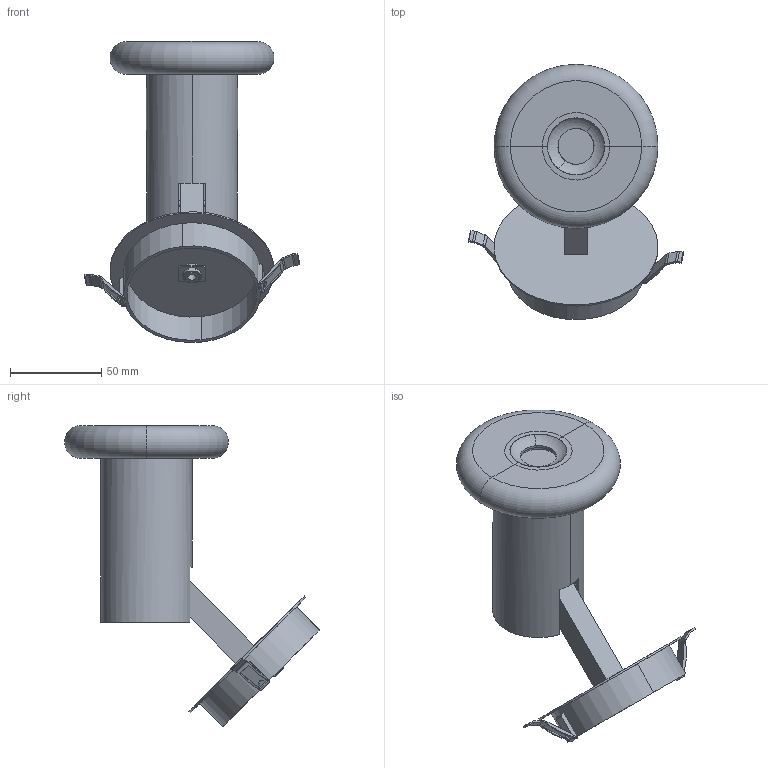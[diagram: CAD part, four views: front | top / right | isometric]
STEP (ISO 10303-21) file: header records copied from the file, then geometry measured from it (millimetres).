
FILE_DESCRIPTION (( 'STEP AP214' ), '1' );
FILE_NAME ('COCUS_R0310.STEP', '2026-04-21T13:13:44', ( '' ), ( '' ), 'SwSTEP 2.0', 'SolidWorks 2023', '' );
FILE_SCHEMA (( 'AUTOMOTIVE_DESIGN' ));
Length unit declared in the file: millimetre
Products named in the file (3): COCUS_R0310; floron_empotrable; COCUS_T0310 
Assembly tree (2 placements, depth 2):
  COCUS_R0310
    COCUS_T0310 
    floron_empotrable
Bounding box: 118.29 x 139.97 x 165.21 mm (x, y, z)
Volume: 215448.5 mm3; surface area: 116096.8 mm2
Topology: 34 solids, 34 shells, 909 faces, 2322 edges, 1526 vertices
Faces by surface type: plane 391, cylinder 252, bspline 163, cone 77, torus 20, sphere 6
Entity records: 36589 total; most frequent: CARTESIAN_POINT 14836, ORIENTED_EDGE 4632, DIRECTION 4047, EDGE_CURVE 2316, VERTEX_POINT 1525, AXIS2_PLACEMENT_3D 1420, LINE 1207, VECTOR 1207
